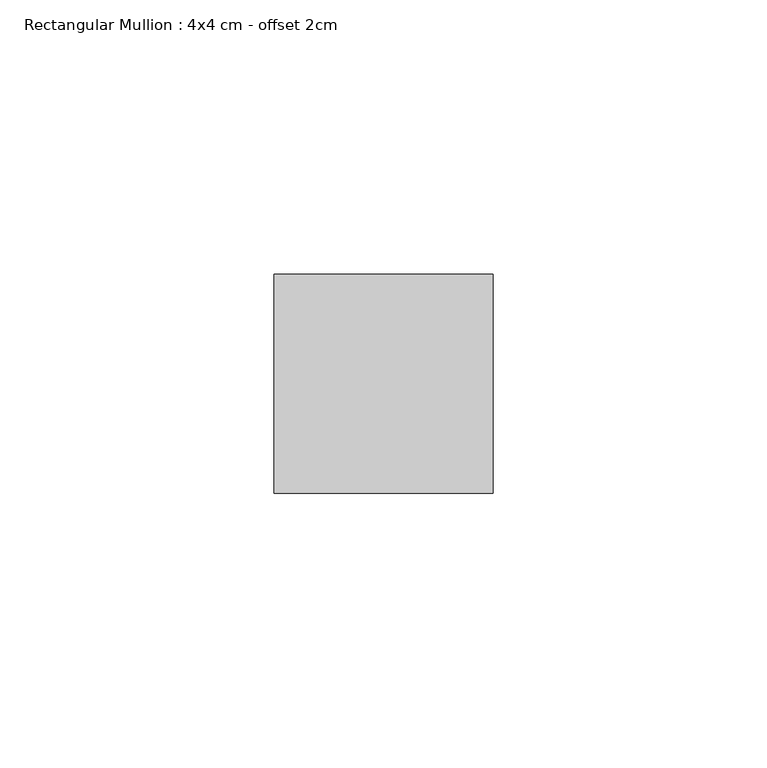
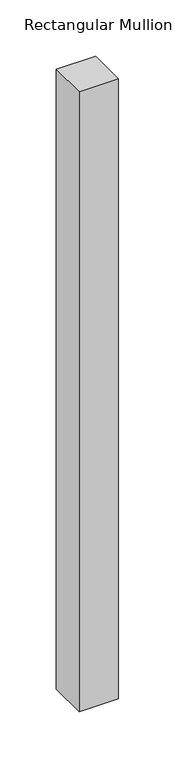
"""IFC4 building model written with IfcOpenShell, lengths in millimetres: member geometry, Rectangular Mullion : 4x4 cm - offset 2cm."""

from ifc_helpers import new_model, si_unit, frame, origin, place, context, project, spatial, polyline, outline, extrude, source, transform, mapped, element, save


def rectangular_mullion_4x4_cm_offset_2cm_22b40ebe(model_context):
    return source(origin(), model_context, "Body", "SweptSolid", [
        extrude(outline(polyline([(0.0, 0.0), (0.0, -40.0), (-40.0, -40.0), (-40.0, 0.0), (0.0, 0.0)])), frame((0.0, 0.0, -670.0), z_axis=(0.0, 0.0, 1.0), x_axis=(1.0, 0.0, 0.0)), (0.0, 0.0, 1.0), 670.0),
    ])


if __name__ == "__main__":
    model = new_model("IFC4")
    model_context = context("Model", 3, world=origin())
    ifc_project = project(units=[si_unit("LENGTHUNIT", "METRE", prefix="MILLI")], contexts=[model_context])
    site = spatial("IfcSite", under=ifc_project)
    building = spatial("IfcBuilding", under=site)
    placement = place(None, origin())
    rectangular_mullion_4x4_cm_offset_2cm_shape = rectangular_mullion_4x4_cm_offset_2cm_22b40ebe(model_context)
    element("IfcMember", 1, ObjectType="Rectangular Mullion : 4x4 cm - offset 2cm", at=placement, inside=building, context=model_context, shape_type="MappedRepresentation", body=[
        mapped(rectangular_mullion_4x4_cm_offset_2cm_shape, transform((0.0, 0.0, 0.0), x_axis=(1.0, 0.0, 0.0), y_axis=(0.0, 1.0, 0.0), z_axis=(0.0, 0.0, 1.0))),
    ])
    save(model, "model.ifc")
